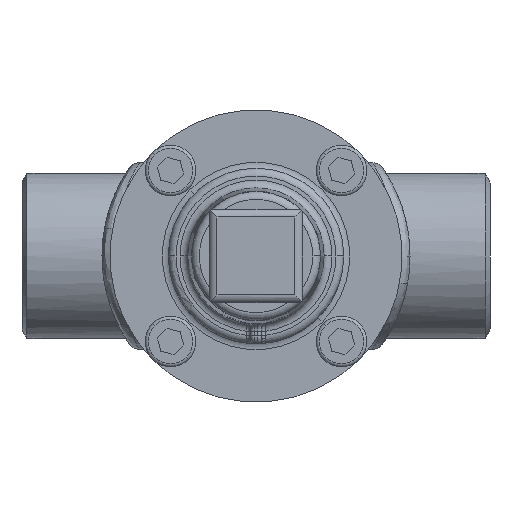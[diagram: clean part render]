
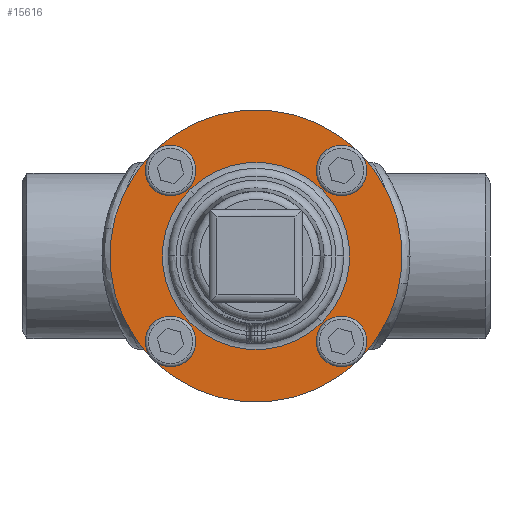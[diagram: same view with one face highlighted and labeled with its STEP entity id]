
A CAD part, front view. The second image highlights one B-rep face of the part: STEP entity #15616.
In plain terms, the highlighted planar face has unit normal (0, -1, 0) as drawn and (0, 0, -1) by its records, which use the part's own axes.
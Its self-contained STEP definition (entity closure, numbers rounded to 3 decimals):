
#16460 = VERTEX_POINT ( 'NONE', #10554 ) ;
#262 = CARTESIAN_POINT ( 'NONE',  ( -4.5, 31., -14. ) ) ;
#484 = VERTEX_POINT ( 'NONE', #18385 ) ;
#625 = EDGE_CURVE ( 'NONE', #3639, #10389, #18558, .T. ) ;
#17169 = VERTEX_POINT ( 'NONE', #11279 ) ;
#1088 = CARTESIAN_POINT ( 'NONE',  ( -24., 0., -14. ) ) ;
#1126 = CIRCLE ( 'NONE', #1127, 4.5 ) ;
#1127 = AXIS2_PLACEMENT_3D ( 'NONE', #1128, #1129, #1130 ) ;
#1128 = CARTESIAN_POINT ( 'NONE',  ( 31., 0., -14. ) ) ;
#1129 = DIRECTION ( 'NONE',  ( 0., 0., -1. ) ) ;
#1130 = DIRECTION ( 'NONE',  ( 0., 1., 0. ) ) ;
#1139 = VERTEX_POINT ( 'NONE', #19048 ) ;
#1244 = EDGE_CURVE ( 'NONE', #10370, #10596, #19152, .T. ) ;
#1313 = ORIENTED_EDGE ( 'NONE', *, *, #625, .F. ) ;
#1373 = CIRCLE ( 'NONE', #1374, 4.5 ) ;
#1374 = AXIS2_PLACEMENT_3D ( 'NONE', #1375, #1376, #1377 ) ;
#1375 = CARTESIAN_POINT ( 'NONE',  ( 0., -31., -14. ) ) ;
#1376 = DIRECTION ( 'NONE',  ( 0., 0., -1. ) ) ;
#1377 = DIRECTION ( 'NONE',  ( 1., 0., 0. ) ) ;
#1378 = CARTESIAN_POINT ( 'NONE',  ( -37.5, 0., -14. ) ) ;
#1380 = CARTESIAN_POINT ( 'NONE',  ( 4.5, 31., -14. ) ) ;
#1628 = CIRCLE ( 'NONE', #1629, 24. ) ;
#1629 = AXIS2_PLACEMENT_3D ( 'NONE', #1630, #1631, #1632 ) ;
#1630 = CARTESIAN_POINT ( 'NONE',  ( 0., 0., -14. ) ) ;
#1631 = DIRECTION ( 'NONE',  ( 0., 0., 1. ) ) ;
#1632 = DIRECTION ( 'NONE',  ( 1., 0., 0. ) ) ;
#18014 = CIRCLE ( 'NONE', #18015, 37.5 ) ;
#18015 = AXIS2_PLACEMENT_3D ( 'NONE', #18016, #18017, #18018 ) ;
#18016 = CARTESIAN_POINT ( 'NONE',  ( 0., 0., -14. ) ) ;
#18017 = DIRECTION ( 'NONE',  ( 0., 0., 1. ) ) ;
#18018 = DIRECTION ( 'NONE',  ( 1., 0., 0. ) ) ;
#1940 = ORIENTED_EDGE ( 'NONE', *, *, #1244, .F. ) ;
#1960 = CARTESIAN_POINT ( 'NONE',  ( 37.5, 0., -14. ) ) ;
#18385 = CARTESIAN_POINT ( 'NONE',  ( 4.5, -31., -14. ) ) ;
#18446 = EDGE_LOOP ( 'NONE', ( #2904, #1940 ) ) ;
#18558 = CIRCLE ( 'NONE', #18559, 4.5 ) ;
#18559 = AXIS2_PLACEMENT_3D ( 'NONE', #18560, #18561, #18562 ) ;
#18560 = CARTESIAN_POINT ( 'NONE',  ( 0., 31., -14. ) ) ;
#18561 = DIRECTION ( 'NONE',  ( 0., 0., -1. ) ) ;
#18562 = DIRECTION ( 'NONE',  ( -1., 0., 0. ) ) ;
#2285 = EDGE_LOOP ( 'NONE', ( #1313, #21866 ) ) ;
#18694 = ORIENTED_EDGE ( 'NONE', *, *, #21556, .T. ) ;
#18912 = CIRCLE ( 'NONE', #18913, 4.5 ) ;
#18913 = AXIS2_PLACEMENT_3D ( 'NONE', #18914, #18915, #18935 ) ;
#18914 = CARTESIAN_POINT ( 'NONE',  ( 31., 0., -14. ) ) ;
#18915 = DIRECTION ( 'NONE',  ( 0., 0., -1. ) ) ;
#18935 = DIRECTION ( 'NONE',  ( 0., 1., 0. ) ) ;
#19048 = CARTESIAN_POINT ( 'NONE',  ( 35.5, 0., -14. ) ) ;
#2733 = ORIENTED_EDGE ( 'NONE', *, *, #19484, .F. ) ;
#19152 = CIRCLE ( 'NONE', #19153, 37.5 ) ;
#19153 = AXIS2_PLACEMENT_3D ( 'NONE', #19154, #19155, #19156 ) ;
#19154 = CARTESIAN_POINT ( 'NONE',  ( 0., 0., -14. ) ) ;
#19155 = DIRECTION ( 'NONE',  ( 0., 0., 1. ) ) ;
#19156 = DIRECTION ( 'NONE',  ( 1., 0., 0. ) ) ;
#2904 = ORIENTED_EDGE ( 'NONE', *, *, #10822, .F. ) ;
#19484 = EDGE_CURVE ( 'NONE', #20763, #8306, #14793, .T. ) ;
#19657 = EDGE_CURVE ( 'NONE', #20728, #21141, #15454, .T. ) ;
#3338 = EDGE_CURVE ( 'NONE', #8306, #20763, #21499, .T. ) ;
#3639 = VERTEX_POINT ( 'NONE', #262 ) ;
#3715 = ORIENTED_EDGE ( 'NONE', *, *, #3338, .F. ) ;
#20348 = ORIENTED_EDGE ( 'NONE', *, *, #19657, .T. ) ;
#20728 = VERTEX_POINT ( 'NONE', #15862 ) ;
#20763 = VERTEX_POINT ( 'NONE', #15869 ) ;
#21141 = VERTEX_POINT ( 'NONE', #1088 ) ;
#21417 = EDGE_CURVE ( 'NONE', #484, #16460, #1373, .T. ) ;
#21418 = EDGE_LOOP ( 'NONE', ( #20348, #18694 ) ) ;
#21499 = CIRCLE ( 'NONE', #21500, 4.5 ) ;
#21500 = AXIS2_PLACEMENT_3D ( 'NONE', #21501, #21522, #21523 ) ;
#21501 = CARTESIAN_POINT ( 'NONE',  ( -31., 0., -14. ) ) ;
#21522 = DIRECTION ( 'NONE',  ( 0., 0., -1. ) ) ;
#21523 = DIRECTION ( 'NONE',  ( 0., -1., 0. ) ) ;
#21556 = EDGE_CURVE ( 'NONE', #21141, #20728, #1628, .T. ) ;
#5197 = FACE_BOUND ( 'NONE', #15379, .T. ) ;
#5198 = FACE_BOUND ( 'NONE', #10597, .T. ) ;
#5200 = FACE_BOUND ( 'NONE', #8954, .T. ) ;
#5201 = FACE_BOUND ( 'NONE', #2285, .T. ) ;
#5202 = FACE_BOUND ( 'NONE', #21418, .T. ) ;
#5203 = FACE_OUTER_BOUND ( 'NONE', #18446, .T. ) ;
#5221 = PLANE ( 'NONE',  #5222 ) ;
#5222 = AXIS2_PLACEMENT_3D ( 'NONE', #5223, #5224, #5225 ) ;
#5223 = CARTESIAN_POINT ( 'NONE',  ( 0., 0., -14. ) ) ;
#5224 = DIRECTION ( 'NONE',  ( 0., 0., 1. ) ) ;
#5225 = DIRECTION ( 'NONE',  ( 1., 0., 0. ) ) ;
#21866 = ORIENTED_EDGE ( 'NONE', *, *, #9710, .F. ) ;
#8306 = VERTEX_POINT ( 'NONE', #13330 ) ;
#8954 = EDGE_LOOP ( 'NONE', ( #3715, #2733 ) ) ;
#9191 = ORIENTED_EDGE ( 'NONE', *, *, #21417, .F. ) ;
#9710 = EDGE_CURVE ( 'NONE', #10389, #3639, #15741, .T. ) ;
#9711 = EDGE_CURVE ( 'NONE', #16460, #484, #15746, .T. ) ;
#10086 = ORIENTED_EDGE ( 'NONE', *, *, #9711, .F. ) ;
#10247 = EDGE_CURVE ( 'NONE', #1139, #17169, #1126, .T. ) ;
#10370 = VERTEX_POINT ( 'NONE', #1378 ) ;
#10389 = VERTEX_POINT ( 'NONE', #1380 ) ;
#10554 = CARTESIAN_POINT ( 'NONE',  ( -4.5, -31., -14. ) ) ;
#10596 = VERTEX_POINT ( 'NONE', #1960 ) ;
#10597 = EDGE_LOOP ( 'NONE', ( #10086, #9191 ) ) ;
#10822 = EDGE_CURVE ( 'NONE', #10596, #10370, #18014, .T. ) ;
#10842 = ORIENTED_EDGE ( 'NONE', *, *, #10247, .F. ) ;
#11279 = CARTESIAN_POINT ( 'NONE',  ( 26.5, 0., -14. ) ) ;
#11359 = EDGE_CURVE ( 'NONE', #17169, #1139, #18912, .T. ) ;
#11684 = ORIENTED_EDGE ( 'NONE', *, *, #11359, .F. ) ;
#13330 = CARTESIAN_POINT ( 'NONE',  ( -35.5, 0., -14. ) ) ;
#14793 = CIRCLE ( 'NONE', #14794, 4.5 ) ;
#14794 = AXIS2_PLACEMENT_3D ( 'NONE', #14795, #14796, #14797 ) ;
#14795 = CARTESIAN_POINT ( 'NONE',  ( -31., 0., -14. ) ) ;
#14796 = DIRECTION ( 'NONE',  ( 0., 0., -1. ) ) ;
#14797 = DIRECTION ( 'NONE',  ( 0., -1., 0. ) ) ;
#15379 = EDGE_LOOP ( 'NONE', ( #11684, #10842 ) ) ;
#15454 = CIRCLE ( 'NONE', #15455, 24. ) ;
#15455 = AXIS2_PLACEMENT_3D ( 'NONE', #15456, #15457, #15458 ) ;
#15456 = CARTESIAN_POINT ( 'NONE',  ( 0., 0., -14. ) ) ;
#15457 = DIRECTION ( 'NONE',  ( 0., 0., 1. ) ) ;
#15458 = DIRECTION ( 'NONE',  ( 1., 0., 0. ) ) ;
#15616 = ADVANCED_FACE ( 'NONE', ( #5197, #5198, #5200, #5201, #5202, #5203 ), #5221, .F. ) ;
#15741 = CIRCLE ( 'NONE', #15742, 4.5 ) ;
#15742 = AXIS2_PLACEMENT_3D ( 'NONE', #15743, #15744, #15745 ) ;
#15743 = CARTESIAN_POINT ( 'NONE',  ( 0., 31., -14. ) ) ;
#15744 = DIRECTION ( 'NONE',  ( 0., 0., -1. ) ) ;
#15745 = DIRECTION ( 'NONE',  ( -1., 0., 0. ) ) ;
#15746 = CIRCLE ( 'NONE', #15747, 4.5 ) ;
#15747 = AXIS2_PLACEMENT_3D ( 'NONE', #15748, #15753, #15754 ) ;
#15748 = CARTESIAN_POINT ( 'NONE',  ( 0., -31., -14. ) ) ;
#15753 = DIRECTION ( 'NONE',  ( 0., 0., -1. ) ) ;
#15754 = DIRECTION ( 'NONE',  ( 1., 0., 0. ) ) ;
#15862 = CARTESIAN_POINT ( 'NONE',  ( 24., 0., -14. ) ) ;
#15869 = CARTESIAN_POINT ( 'NONE',  ( -26.5, 0., -14. ) ) ;
